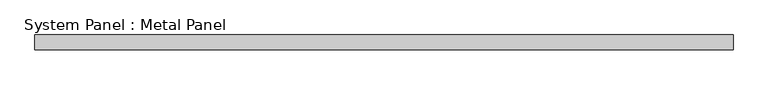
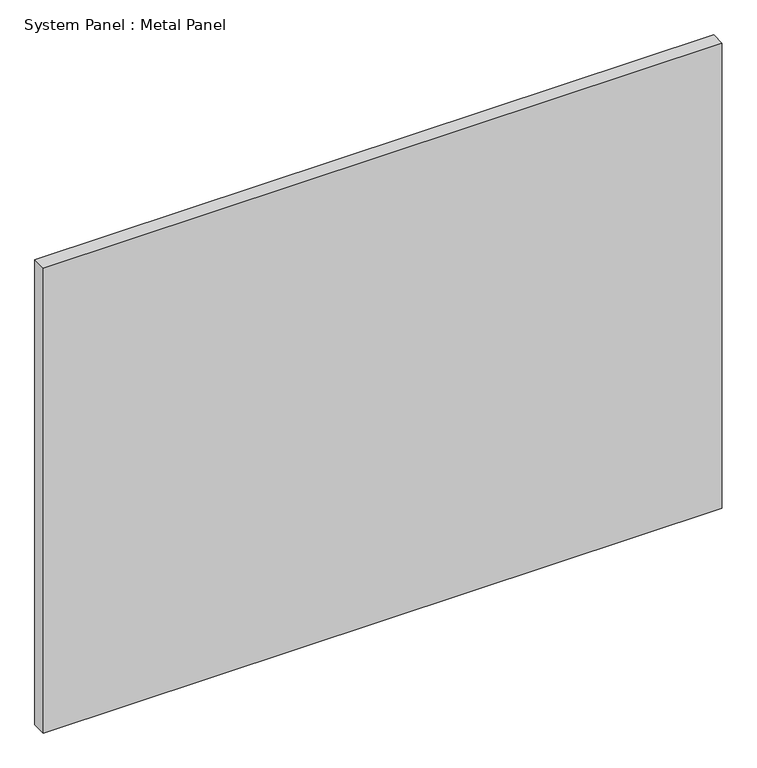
"""IFC4 building model written with IfcOpenShell, lengths in millimetres: plate geometry, System Panel : Metal Panel."""

from ifc_helpers import new_model, si_unit, origin, origin_with_axes, place, context, project, spatial, polyline, outline, extrude, source, transform, mapped, element, save


def system_panel_metal_panel_f9c2a482(model_context):
    return source(origin(), model_context, "Body", "SweptSolid", [
        extrude(outline(polyline([(587.8744819, 19.05), (-587.8744819, 19.05), (-587.8744819, 44.45), (587.8744819, 44.45), (587.8744819, 19.05)])), origin_with_axes(), (0.0, 0.0, 1.0), 850.9),
    ])


if __name__ == "__main__":
    model = new_model("IFC4")
    model_context = context("Model", 3, world=origin())
    ifc_project = project(units=[si_unit("LENGTHUNIT", "METRE", prefix="MILLI")], contexts=[model_context])
    site = spatial("IfcSite", under=ifc_project)
    building = spatial("IfcBuilding", under=site)
    placement = place(None, origin())
    system_panel_metal_panel_shape = system_panel_metal_panel_f9c2a482(model_context)
    element("IfcPlate", 1, ObjectType="System Panel : Metal Panel", at=placement, inside=building, context=model_context, shape_type="MappedRepresentation", body=[
        mapped(system_panel_metal_panel_shape, transform((0.0, 0.0, 0.0), x_axis=(1.0, 0.0, 0.0), y_axis=(0.0, 1.0, 0.0), z_axis=(0.0, 0.0, 1.0))),
    ])
    save(model, "model.ifc")
